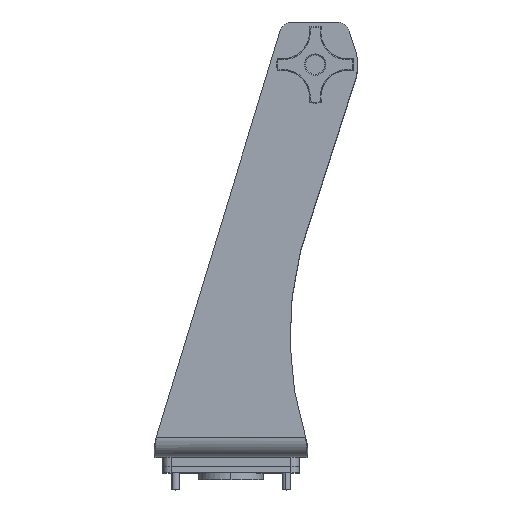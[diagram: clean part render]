
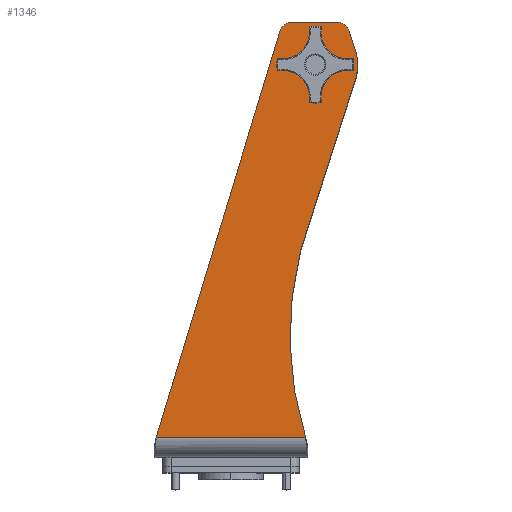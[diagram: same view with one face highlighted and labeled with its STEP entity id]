
A CAD part, top view. The second image highlights one B-rep face of the part: STEP entity #1346.
In plain terms, the highlighted planar face has unit normal (0, 0, 1) as drawn and (1, 0, 0) by its records, which use the part's own axes.
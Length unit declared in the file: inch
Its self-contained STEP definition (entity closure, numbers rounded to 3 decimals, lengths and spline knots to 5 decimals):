
#171 = VERTEX_POINT ( 'NONE', #16080 ) ;
#974 = VECTOR ( 'NONE', #8535, 39.37008 ) ;
#1003 = VERTEX_POINT ( 'NONE', #9091 ) ;
#1031 = VECTOR ( 'NONE', #1930, 39.37008 ) ;
#1346 = ADVANCED_FACE ( 'NONE', ( #17691, #7146 ), #17383, .T. ) ;
#1447 = ORIENTED_EDGE ( 'NONE', *, *, #8678, .T. ) ;
#1818 = ORIENTED_EDGE ( 'NONE', *, *, #17501, .T. ) ;
#1908 = DIRECTION ( 'NONE',  ( 1., 0., 0. ) ) ;
#1930 = DIRECTION ( 'NONE',  ( 0., 0., -1. ) ) ;
#2808 = ORIENTED_EDGE ( 'NONE', *, *, #3376, .T. ) ;
#2968 = AXIS2_PLACEMENT_3D ( 'NONE', #14640, #3428, #16527 ) ;
#3253 = CIRCLE ( 'NONE', #17203, 0.37474 ) ;
#3264 = CARTESIAN_POINT ( 'NONE',  ( 8.7, 11.488, -2.46533 ) ) ;
#3376 = EDGE_CURVE ( 'NONE', #1003, #18160, #24032, .T. ) ;
#3416 = ORIENTED_EDGE ( 'NONE', *, *, #6038, .T. ) ;
#3428 = DIRECTION ( 'NONE',  ( -1., 0., 0. ) ) ;
#3763 = CARTESIAN_POINT ( 'NONE',  ( 8.7, 12.36326, -3.10022 ) ) ;
#3869 = VECTOR ( 'NONE', #24186, 39.37008 ) ;
#3877 = VERTEX_POINT ( 'NONE', #16765 ) ;
#4004 = EDGE_LOOP ( 'NONE', ( #17661, #22984, #1818, #7390, #1447, #3416, #2808, #18171, #22991 ) ) ;
#4104 = VECTOR ( 'NONE', #20776, 39.37008 ) ;
#4282 = CARTESIAN_POINT ( 'NONE',  ( 8.7, 3.56814, -11.72649 ) ) ;
#4502 = EDGE_CURVE ( 'NONE', #18160, #9290, #21091, .T. ) ;
#4732 = EDGE_CURVE ( 'NONE', #9290, #3877, #3253, .T. ) ;
#4788 = CARTESIAN_POINT ( 'NONE',  ( 8.7, 6.61069, -2.21707 ) ) ;
#5000 = AXIS2_PLACEMENT_3D ( 'NONE', #7286, #20363, #9146 ) ;
#5053 = AXIS2_PLACEMENT_3D ( 'NONE', #3763, #16862, #5647 ) ;
#5138 = DIRECTION ( 'NONE',  ( 0., 1., 0. ) ) ;
#5145 = VERTEX_POINT ( 'NONE', #9896 ) ;
#5270 = CARTESIAN_POINT ( 'NONE',  ( 8.7, 12.36326, -1.79451 ) ) ;
#5647 = DIRECTION ( 'NONE',  ( 0., 1., 0. ) ) ;
#5662 = CIRCLE ( 'NONE', #13111, 0.1955 ) ;
#5896 = LINE ( 'NONE', #4788, #974 ) ;
#6038 = EDGE_CURVE ( 'NONE', #11113, #1003, #8828, .T. ) ;
#6784 = VECTOR ( 'NONE', #8394, 39.37008 ) ;
#7146 = FACE_OUTER_BOUND ( 'NONE', #4004, .T. ) ;
#7158 = DIRECTION ( 'NONE',  ( 0., 1., 0. ) ) ;
#7286 = CARTESIAN_POINT ( 'NONE',  ( 8.7, 11.488, -2.46533 ) ) ;
#7377 = AXIS2_PLACEMENT_3D ( 'NONE', #4282, #21119, #9893 ) ;
#7390 = ORIENTED_EDGE ( 'NONE', *, *, #10926, .T. ) ;
#7901 = CARTESIAN_POINT ( 'NONE',  ( 8.7, 11.2925, -2.46533 ) ) ;
#8394 = DIRECTION ( 'NONE',  ( 0., 0., 1. ) ) ;
#8535 = DIRECTION ( 'NONE',  ( 0., 0.952, -0.305 ) ) ;
#8678 = EDGE_CURVE ( 'NONE', #20319, #11113, #9666, .T. ) ;
#8828 = LINE ( 'NONE', #18585, #3869 ) ;
#8956 = VERTEX_POINT ( 'NONE', #11686 ) ;
#8969 = CIRCLE ( 'NONE', #22622, 0.1955 ) ;
#9091 = CARTESIAN_POINT ( 'NONE',  ( 8.7, 12.47165, -3.45894 ) ) ;
#9125 = LINE ( 'NONE', #13094, #1031 ) ;
#9146 = DIRECTION ( 'NONE',  ( 0., 1., 0. ) ) ;
#9290 = VERTEX_POINT ( 'NONE', #16607 ) ;
#9627 = ORIENTED_EDGE ( 'NONE', *, *, #16489, .F. ) ;
#9666 = CIRCLE ( 'NONE', #5000, 1.25 ) ;
#9764 = ORIENTED_EDGE ( 'NONE', *, *, #14870, .F. ) ;
#9893 = DIRECTION ( 'NONE',  ( 0., 1., 0. ) ) ;
#9896 = CARTESIAN_POINT ( 'NONE',  ( 8.7, 0.563, -2.18872 ) ) ;
#10828 = CARTESIAN_POINT ( 'NONE',  ( 8.7, 11.12647, -3.6619 ) ) ;
#10926 = EDGE_CURVE ( 'NONE', #8956, #20319, #5896, .T. ) ;
#11113 = VERTEX_POINT ( 'NONE', #24035 ) ;
#11661 = CARTESIAN_POINT ( 'NONE',  ( 8.7, 0.563, 2.19271 ) ) ;
#11686 = CARTESIAN_POINT ( 'NONE',  ( 8.7, 6.07712, -2.04636 ) ) ;
#13072 = CARTESIAN_POINT ( 'NONE',  ( 8.7, 11.488, -2.46533 ) ) ;
#13094 = CARTESIAN_POINT ( 'NONE',  ( 8.7, 0.563, -11.72649 ) ) ;
#13111 = AXIS2_PLACEMENT_3D ( 'NONE', #3264, #16356, #5138 ) ;
#14640 = CARTESIAN_POINT ( 'NONE',  ( 8.7, 3.56814, -11.72649 ) ) ;
#14870 = EDGE_CURVE ( 'NONE', #171, #15394, #8969, .T. ) ;
#14991 = DIRECTION ( 'NONE',  ( 0., 1., 0. ) ) ;
#15394 = VERTEX_POINT ( 'NONE', #7901 ) ;
#15467 = CARTESIAN_POINT ( 'NONE',  ( 8.7, 12.738, -3.10022 ) ) ;
#16080 = CARTESIAN_POINT ( 'NONE',  ( 8.7, 11.6835, -2.46533 ) ) ;
#16356 = DIRECTION ( 'NONE',  ( 1., 0., 0. ) ) ;
#16489 = EDGE_CURVE ( 'NONE', #15394, #171, #5662, .T. ) ;
#16527 = DIRECTION ( 'NONE',  ( 0., 1., 0. ) ) ;
#16607 = CARTESIAN_POINT ( 'NONE',  ( 8.7, 12.738, -1.79451 ) ) ;
#16765 = CARTESIAN_POINT ( 'NONE',  ( 8.7, 12.45347, -1.43079 ) ) ;
#16862 = DIRECTION ( 'NONE',  ( 1., 0., 0. ) ) ;
#17125 = EDGE_CURVE ( 'NONE', #17808, #5145, #9125, .T. ) ;
#17203 = AXIS2_PLACEMENT_3D ( 'NONE', #5270, #18359, #7158 ) ;
#17383 = PLANE ( 'NONE',  #7377 ) ;
#17501 = EDGE_CURVE ( 'NONE', #5145, #8956, #19395, .T. ) ;
#17521 = EDGE_LOOP ( 'NONE', ( #9764, #9627 ) ) ;
#17661 = ORIENTED_EDGE ( 'NONE', *, *, #19362, .T. ) ;
#17691 = FACE_BOUND ( 'NONE', #17521, .T. ) ;
#17808 = VERTEX_POINT ( 'NONE', #11661 ) ;
#18160 = VERTEX_POINT ( 'NONE', #15467 ) ;
#18171 = ORIENTED_EDGE ( 'NONE', *, *, #4502, .T. ) ;
#18359 = DIRECTION ( 'NONE',  ( 1., 0., 0. ) ) ;
#18585 = CARTESIAN_POINT ( 'NONE',  ( 8.7, 1.98684, -6.87961 ) ) ;
#18913 = CARTESIAN_POINT ( 'NONE',  ( 8.7, 7.19407, 0.17195 ) ) ;
#19032 = LINE ( 'NONE', #18913, #4104 ) ;
#19362 = EDGE_CURVE ( 'NONE', #3877, #17808, #19032, .T. ) ;
#19395 = CIRCLE ( 'NONE', #2968, 10. ) ;
#20319 = VERTEX_POINT ( 'NONE', #10828 ) ;
#20363 = DIRECTION ( 'NONE',  ( 1., 0., 0. ) ) ;
#20776 = DIRECTION ( 'NONE',  ( 0., -0.957, 0.292 ) ) ;
#21091 = LINE ( 'NONE', #21486, #6784 ) ;
#21119 = DIRECTION ( 'NONE',  ( 1., 0., 0. ) ) ;
#21486 = CARTESIAN_POINT ( 'NONE',  ( 8.7, 12.738, -11.72649 ) ) ;
#22622 = AXIS2_PLACEMENT_3D ( 'NONE', #13072, #1908, #14991 ) ;
#22984 = ORIENTED_EDGE ( 'NONE', *, *, #17125, .T. ) ;
#22991 = ORIENTED_EDGE ( 'NONE', *, *, #4732, .T. ) ;
#24032 = CIRCLE ( 'NONE', #5053, 0.37474 ) ;
#24035 = CARTESIAN_POINT ( 'NONE',  ( 8.7, 11.84953, -3.6619 ) ) ;
#24186 = DIRECTION ( 'NONE',  ( 0., 0.951, 0.31 ) ) ;
